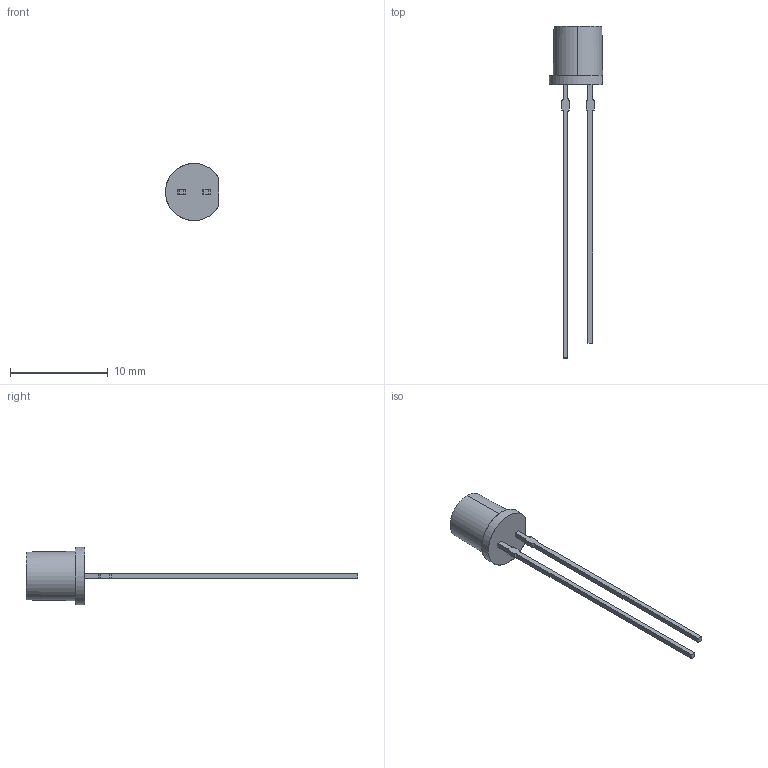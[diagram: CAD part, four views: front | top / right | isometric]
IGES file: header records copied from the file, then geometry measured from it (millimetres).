
Start section: SolidWorks IGES file using analytic representation for surfaces
Global section: file name: C:\LTUser\__geometry_data\SFH_203\SFH_203_061213_geometry.IGS; native system: SolidWorks 2012; preprocessor: SolidWorks 2012; author: JC_1406; date: 131206.111844; units: millimetre
Bounding box: 5.45 x 34 x 5.85 mm (x, y, z)
Surface area: 276.7 mm2 (no closed solid volume)
Topology: 0 solids, 0 shells, 33 faces, 315 edges, 312 vertices
Faces by surface type: bspline 21, revolution 12
